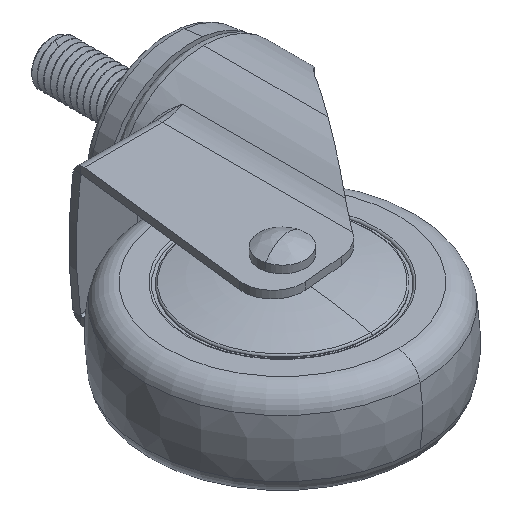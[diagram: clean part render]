
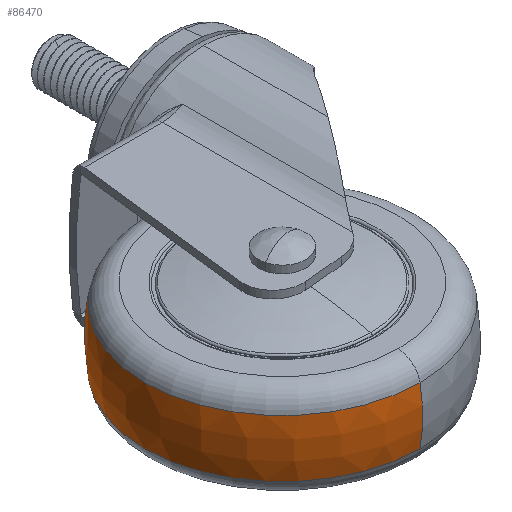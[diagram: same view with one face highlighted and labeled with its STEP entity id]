
A CAD part, isometric view. The second image highlights one B-rep face of the part: STEP entity #86470.
In plain terms, the highlighted toroidal (fillet/blend) face has major radius 2.5 mm and minor radius 40 mm.
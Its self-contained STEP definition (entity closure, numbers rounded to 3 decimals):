
#2052 = CIRCLE ( 'NONE', #15403, 36.762 ) ;
#3399 = VERTEX_POINT ( 'NONE', #64146 ) ;
#3768 = DIRECTION ( 'NONE',  ( 0., 0., -1. ) ) ;
#4886 = AXIS2_PLACEMENT_3D ( 'NONE', #20602, #69669, #34492 ) ;
#5593 = DIRECTION ( 'NONE',  ( -1., 0., 0. ) ) ;
#9469 = EDGE_CURVE ( 'NONE', #9622, #72785, #2052, .T. ) ;
#9622 = VERTEX_POINT ( 'NONE', #60245 ) ;
#12072 = DIRECTION ( 'NONE',  ( 0., 1., 0. ) ) ;
#15403 = AXIS2_PLACEMENT_3D ( 'NONE', #18280, #3768, #17979 ) ;
#17979 = DIRECTION ( 'NONE',  ( 0., 1., 0. ) ) ;
#18280 = CARTESIAN_POINT ( 'NONE',  ( 0., 0., 7.647 ) ) ;
#20602 = CARTESIAN_POINT ( 'NONE',  ( 0., 0., 0. ) ) ;
#21761 = ORIENTED_EDGE ( 'NONE', *, *, #9469, .T. ) ;
#22205 = FACE_OUTER_BOUND ( 'NONE', #24452, .T. ) ;
#23565 = AXIS2_PLACEMENT_3D ( 'NONE', #88366, #54353, #12072 ) ;
#24452 = EDGE_LOOP ( 'NONE', ( #37985, #21761, #54539, #91661 ) ) ;
#25163 = CARTESIAN_POINT ( 'NONE',  ( 0., 2.5, 0. ) ) ;
#26295 = DIRECTION ( 'NONE',  ( 0., 0., 1. ) ) ;
#28047 = CIRCLE ( 'NONE', #69797, 40. ) ;
#34004 = CARTESIAN_POINT ( 'NONE',  ( 0., -2.5, 0. ) ) ;
#34492 = DIRECTION ( 'NONE',  ( 0., 1., 0. ) ) ;
#37075 = EDGE_CURVE ( 'NONE', #3399, #66590, #38215, .T. ) ;
#37985 = ORIENTED_EDGE ( 'NONE', *, *, #58423, .F. ) ;
#38215 = CIRCLE ( 'NONE', #23565, 36.762 ) ;
#41373 = EDGE_CURVE ( 'NONE', #72785, #66590, #77909, .T. ) ;
#44249 = AXIS2_PLACEMENT_3D ( 'NONE', #34004, #5593, #26295 ) ;
#50897 = TOROIDAL_SURFACE ( 'NONE', #4886, -2.5, 40. ) ;
#54353 = DIRECTION ( 'NONE',  ( 0., 0., -1. ) ) ;
#54539 = ORIENTED_EDGE ( 'NONE', *, *, #41373, .T. ) ;
#58423 = EDGE_CURVE ( 'NONE', #9622, #3399, #28047, .T. ) ;
#60245 = CARTESIAN_POINT ( 'NONE',  ( 0., -36.762, 7.647 ) ) ;
#64146 = CARTESIAN_POINT ( 'NONE',  ( 0., -36.762, -7.647 ) ) ;
#66590 = VERTEX_POINT ( 'NONE', #89213 ) ;
#69669 = DIRECTION ( 'NONE',  ( 0., 0., -1. ) ) ;
#69797 = AXIS2_PLACEMENT_3D ( 'NONE', #25163, #74856, #88475 ) ;
#72785 = VERTEX_POINT ( 'NONE', #83309 ) ;
#74856 = DIRECTION ( 'NONE',  ( 1., 0., 0. ) ) ;
#77909 = CIRCLE ( 'NONE', #44249, 40. ) ;
#83309 = CARTESIAN_POINT ( 'NONE',  ( 0., 36.762, 7.647 ) ) ;
#86470 = ADVANCED_FACE ( 'NONE', ( #22205 ), #50897, .T. ) ;
#88366 = CARTESIAN_POINT ( 'NONE',  ( 0., 0., -7.647 ) ) ;
#88475 = DIRECTION ( 'NONE',  ( 0., 1., 0. ) ) ;
#89213 = CARTESIAN_POINT ( 'NONE',  ( 0., 36.762, -7.647 ) ) ;
#91661 = ORIENTED_EDGE ( 'NONE', *, *, #37075, .F. ) ;
